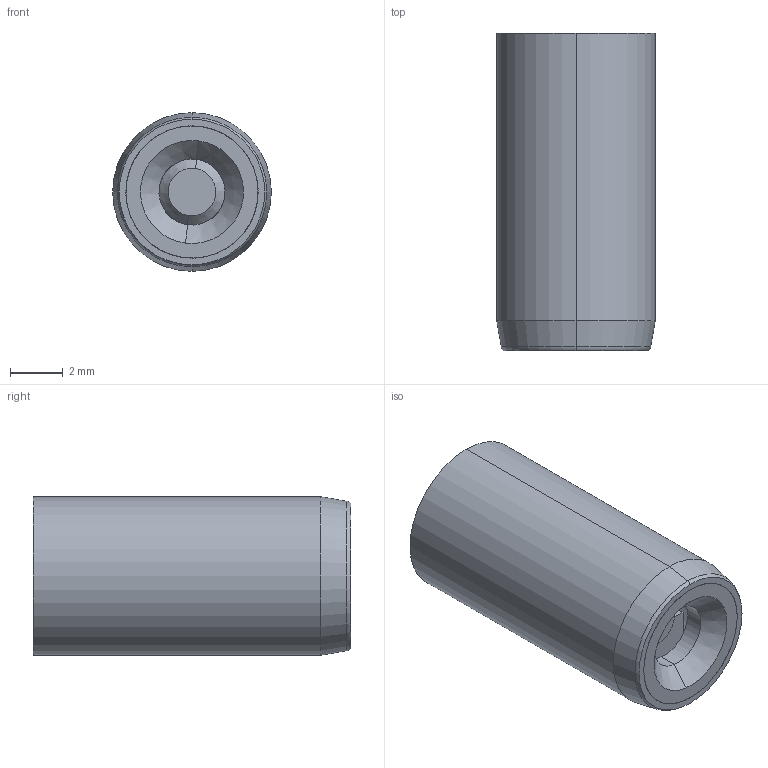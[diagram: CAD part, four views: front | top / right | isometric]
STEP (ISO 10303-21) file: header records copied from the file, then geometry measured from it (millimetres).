
FILE_DESCRIPTION (( 'STEP AP214' ), '1' );
FILE_NAME ('VA065212.STEP', '2013-06-27T11:19:40', ( '' ), ( '' ), 'SwSTEP 2.0', 'SolidWorks 2011', '' );
FILE_SCHEMA (( 'AUTOMOTIVE_DESIGN' ));
Length unit declared in the file: millimetre
Products named in the file (6): VA 065212-5 - RECTIFICAT; VA065212; VA 065212-3 COMPRIMIDO; VA 065212-1; VA 065212-4; VA 065212-2
Assembly tree (5 placements, depth 2):
  VA065212
    VA 065212-3 COMPRIMIDO
    VA 065212-1
    VA 065212-4
    VA 065212-2
    VA 065212-5 - RECTIFICAT
Bounding box: 6 x 12 x 6 mm (x, y, z)
Volume: 276 mm3; surface area: 763.4 mm2
Topology: 5 solids, 5 shells, 79 faces, 179 edges, 112 vertices
Faces by surface type: plane 26, cylinder 26, cone 20, torus 5, bspline 2
Entity records: 3796 total; most frequent: CARTESIAN_POINT 1684, DIRECTION 424, ORIENTED_EDGE 358, EDGE_CURVE 179, AXIS2_PLACEMENT_3D 176, VERTEX_POINT 112, CIRCLE 91, EDGE_LOOP 91
